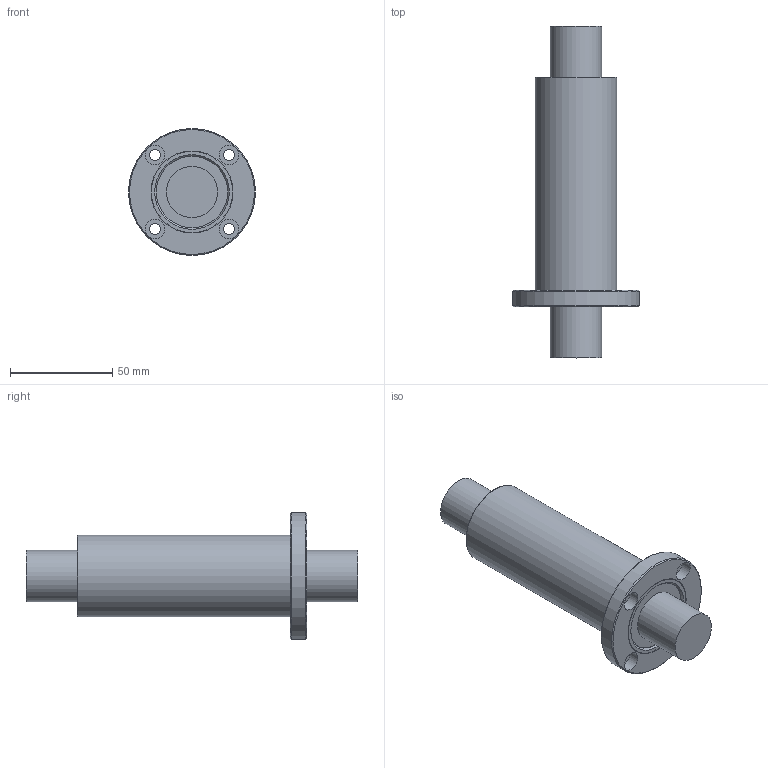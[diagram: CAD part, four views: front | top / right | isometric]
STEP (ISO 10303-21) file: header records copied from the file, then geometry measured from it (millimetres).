
FILE_DESCRIPTION((''),'2;1');
FILE_NAME('D:\STEP\EUROPE\BLANK\LMEF L\LMEF25L.stp','2013-02-05T17:58:51',('user2'),(''),'Autodesk Inventor 2012','Autodesk Inventor 2012','');
FILE_SCHEMA(('AUTOMOTIVE_DESIGN { 1 0 10303 214 1 1 1 1 }'));
Length unit declared in the file: millimetre
Products named in the file (1): LMEF25L
Bounding box: 62 x 162 x 62 mm (x, y, z)
Volume: 176566.2 mm3; surface area: 25415.5 mm2
Topology: 1 solids, 1 shells, 33 faces, 59 edges, 38 vertices
Faces by surface type: cylinder 15, plane 12, cone 4, torus 2
Full cylindrical faces by diameter (mm): 5.5 x4, 9.5 x4, 25 x2, 34.8 x2, 40 x2, 62 x1
Entity records: 736 total; most frequent: DIRECTION 140, CARTESIAN_POINT 106, ORIENTED_EDGE 72, EDGE_LOOP 72, AXIS2_PLACEMENT_3D 70, FACE_BOUND 39, VERTEX_POINT 36, CIRCLE 36
